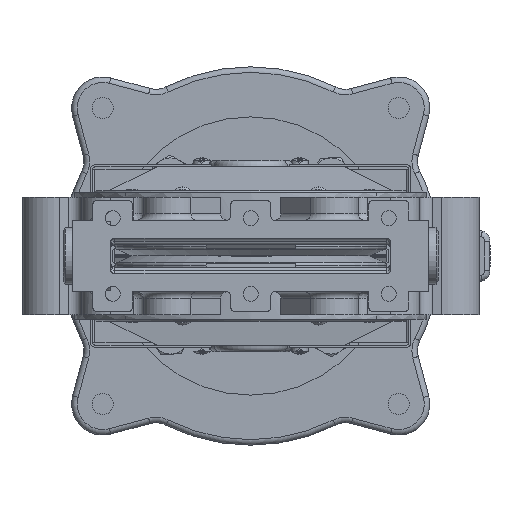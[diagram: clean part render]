
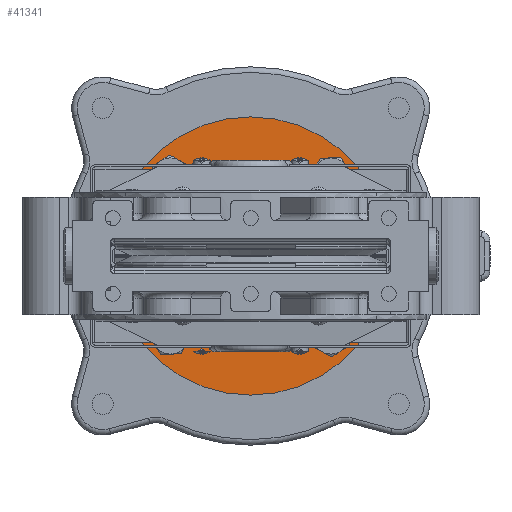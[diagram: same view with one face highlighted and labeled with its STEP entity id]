
A CAD part, front view. The second image highlights one B-rep face of the part: STEP entity #41341.
In plain terms, the highlighted planar face has unit normal (0, -1, 0).
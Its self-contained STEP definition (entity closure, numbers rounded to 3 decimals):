
#2192=FACE_BOUND('',#7744,.T.);
#2193=FACE_BOUND('',#7745,.T.);
#2194=FACE_BOUND('',#7746,.T.);
#2195=FACE_BOUND('',#7747,.T.);
#2196=FACE_BOUND('',#7748,.T.);
#2931=PLANE('',#45754);
#5104=FACE_OUTER_BOUND('',#7743,.T.);
#7743=EDGE_LOOP('',(#34412,#34413));
#7744=EDGE_LOOP('',(#34414,#34415));
#7745=EDGE_LOOP('',(#34416,#34417));
#7746=EDGE_LOOP('',(#34418,#34419));
#7747=EDGE_LOOP('',(#34420,#34421));
#7748=EDGE_LOOP('',(#34422,#34423));
#13645=CIRCLE('',#43206,7.315);
#13646=CIRCLE('',#43207,7.315);
#13660=CIRCLE('',#43238,7.315);
#13661=CIRCLE('',#43239,7.315);
#15048=CIRCLE('',#45752,29.);
#15049=CIRCLE('',#45753,29.);
#15050=CIRCLE('',#45755,62.5);
#15051=CIRCLE('',#45756,62.5);
#15052=CIRCLE('',#45757,7.315);
#15053=CIRCLE('',#45758,7.315);
#15054=CIRCLE('',#45759,7.315);
#15055=CIRCLE('',#45760,7.315);
#16830=VERTEX_POINT('',#65712);
#16831=VERTEX_POINT('',#65713);
#16858=VERTEX_POINT('',#65843);
#16859=VERTEX_POINT('',#65844);
#18642=VERTEX_POINT('',#81617);
#18643=VERTEX_POINT('',#81619);
#18644=VERTEX_POINT('',#81623);
#18645=VERTEX_POINT('',#81624);
#18646=VERTEX_POINT('',#81627);
#18647=VERTEX_POINT('',#81628);
#18648=VERTEX_POINT('',#81631);
#18649=VERTEX_POINT('',#81632);
#21245=EDGE_CURVE('',#16830,#16831,#13645,.T.);
#21246=EDGE_CURVE('',#16831,#16830,#13646,.T.);
#21287=EDGE_CURVE('',#16858,#16859,#13660,.T.);
#21288=EDGE_CURVE('',#16859,#16858,#13661,.T.);
#24177=EDGE_CURVE('',#18643,#18642,#15048,.T.);
#24178=EDGE_CURVE('',#18642,#18643,#15049,.T.);
#24179=EDGE_CURVE('',#18644,#18645,#15050,.T.);
#24180=EDGE_CURVE('',#18645,#18644,#15051,.T.);
#24181=EDGE_CURVE('',#18646,#18647,#15052,.T.);
#24182=EDGE_CURVE('',#18647,#18646,#15053,.T.);
#24183=EDGE_CURVE('',#18648,#18649,#15054,.T.);
#24184=EDGE_CURVE('',#18649,#18648,#15055,.T.);
#34412=ORIENTED_EDGE('',*,*,#24179,.F.);
#34413=ORIENTED_EDGE('',*,*,#24180,.F.);
#34414=ORIENTED_EDGE('',*,*,#24181,.T.);
#34415=ORIENTED_EDGE('',*,*,#24182,.T.);
#34416=ORIENTED_EDGE('',*,*,#21245,.T.);
#34417=ORIENTED_EDGE('',*,*,#21246,.T.);
#34418=ORIENTED_EDGE('',*,*,#24183,.T.);
#34419=ORIENTED_EDGE('',*,*,#24184,.T.);
#34420=ORIENTED_EDGE('',*,*,#21287,.T.);
#34421=ORIENTED_EDGE('',*,*,#21288,.T.);
#34422=ORIENTED_EDGE('',*,*,#24177,.T.);
#34423=ORIENTED_EDGE('',*,*,#24178,.T.);
#41341=ADVANCED_FACE('',(#5104,#2192,#2193,#2194,#2195,#2196),#2931,.T.);
#43206=AXIS2_PLACEMENT_3D('',#65714,#49734,#49735);
#43207=AXIS2_PLACEMENT_3D('',#65715,#49736,#49737);
#43238=AXIS2_PLACEMENT_3D('',#65845,#49812,#49813);
#43239=AXIS2_PLACEMENT_3D('',#65846,#49814,#49815);
#45752=AXIS2_PLACEMENT_3D('',#81620,#55741,#55742);
#45753=AXIS2_PLACEMENT_3D('',#81621,#55743,#55744);
#45754=AXIS2_PLACEMENT_3D('',#81622,#55745,#55746);
#45755=AXIS2_PLACEMENT_3D('',#81625,#55747,#55748);
#45756=AXIS2_PLACEMENT_3D('',#81626,#55749,#55750);
#45757=AXIS2_PLACEMENT_3D('',#81629,#55751,#55752);
#45758=AXIS2_PLACEMENT_3D('',#81630,#55753,#55754);
#45759=AXIS2_PLACEMENT_3D('',#81633,#55755,#55756);
#45760=AXIS2_PLACEMENT_3D('',#81634,#55757,#55758);
#49734=DIRECTION('center_axis',(0.,1.,0.));
#49735=DIRECTION('ref_axis',(0.029,0.,-1.));
#49736=DIRECTION('center_axis',(0.,1.,0.));
#49737=DIRECTION('ref_axis',(0.029,0.,-1.));
#49812=DIRECTION('center_axis',(0.,1.,0.));
#49813=DIRECTION('ref_axis',(-0.029,0.,1.));
#49814=DIRECTION('center_axis',(0.,1.,0.));
#49815=DIRECTION('ref_axis',(-0.029,0.,1.));
#55741=DIRECTION('center_axis',(0.,1.,0.));
#55742=DIRECTION('ref_axis',(0.,0.,
1.));
#55743=DIRECTION('center_axis',(0.,1.,0.));
#55744=DIRECTION('ref_axis',(0.,0.,
1.));
#55745=DIRECTION('center_axis',(0.,-1.,0.));
#55746=DIRECTION('ref_axis',(0.,0.,
-1.));
#55747=DIRECTION('center_axis',(0.,1.,0.));
#55748=DIRECTION('ref_axis',(0.,0.,
1.));
#55749=DIRECTION('center_axis',(0.,1.,0.));
#55750=DIRECTION('ref_axis',(0.,0.,
1.));
#55751=DIRECTION('center_axis',(0.,1.,0.));
#55752=DIRECTION('ref_axis',(-1.,0.,-0.029));
#55753=DIRECTION('center_axis',(0.,1.,0.));
#55754=DIRECTION('ref_axis',(-1.,0.,-0.029));
#55755=DIRECTION('center_axis',(0.,1.,0.));
#55756=DIRECTION('ref_axis',(1.,0.,0.029));
#55757=DIRECTION('center_axis',(0.,1.,0.));
#55758=DIRECTION('ref_axis',(1.,0.,0.029));
#65712=CARTESIAN_POINT('',(-35.854,531.5,28.75));
#65713=CARTESIAN_POINT('',(-36.271,531.5,43.374));
#65714=CARTESIAN_POINT('Origin',(-36.063,531.5,36.062));
#65715=CARTESIAN_POINT('Origin',(-36.063,531.5,36.062));
#65843=CARTESIAN_POINT('',(35.853,531.5,-28.75));
#65844=CARTESIAN_POINT('',(36.271,531.5,-43.374));
#65845=CARTESIAN_POINT('Origin',(36.062,531.5,-36.062));
#65846=CARTESIAN_POINT('Origin',(36.062,531.5,-36.062));
#81617=CARTESIAN_POINT('',(0.,531.5,-29.));
#81619=CARTESIAN_POINT('',(-29.,531.5,0.));
#81620=CARTESIAN_POINT('Origin',(0.,531.5,
0.));
#81621=CARTESIAN_POINT('Origin',(0.,531.5,
0.));
#81622=CARTESIAN_POINT('Origin',(-62.5,531.5,0.));
#81623=CARTESIAN_POINT('',(-62.5,531.5,0.));
#81624=CARTESIAN_POINT('',(62.5,531.5,0.));
#81625=CARTESIAN_POINT('Origin',(0.,531.5,
0.));
#81626=CARTESIAN_POINT('Origin',(0.,531.5,
0.));
#81627=CARTESIAN_POINT('',(28.75,531.5,35.854));
#81628=CARTESIAN_POINT('',(43.374,531.5,36.271));
#81629=CARTESIAN_POINT('Origin',(36.062,531.5,36.062));
#81630=CARTESIAN_POINT('Origin',(36.062,531.5,36.062));
#81631=CARTESIAN_POINT('',(-28.751,531.5,-35.854));
#81632=CARTESIAN_POINT('',(-43.375,531.5,-36.271));
#81633=CARTESIAN_POINT('Origin',(-36.063,531.5,-36.062));
#81634=CARTESIAN_POINT('Origin',(-36.063,531.5,-36.062));
